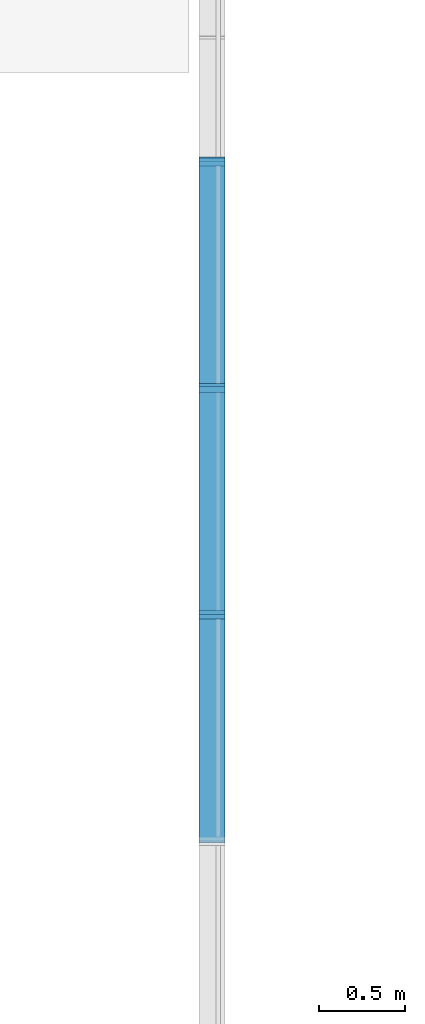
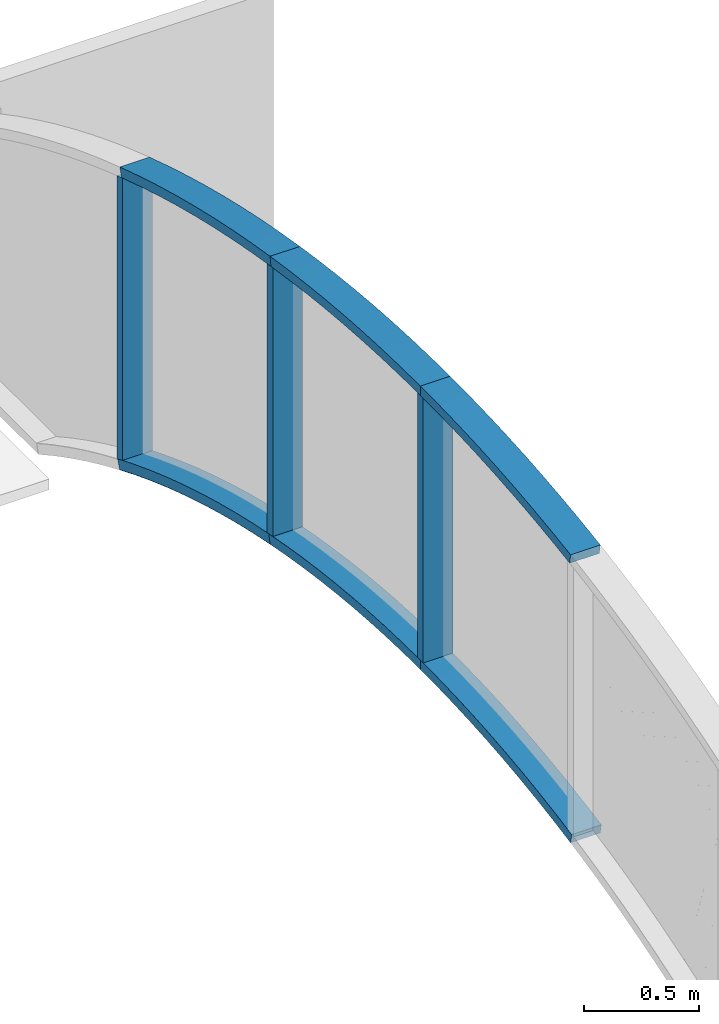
# One storey, part 5 of 14: 17 members, 2 elements without a shape of their own.
"""IFC2X3 building model written with IfcOpenShell, lengths in metres."""

from ifc_helpers import new_model, entity, si_unit, converted_unit, frame, frame_2d, origin, place, context, project, spatial, polyline, circle_curve, parameter, trimmed, segment, composite_curve, outline, extrude, source, transform, mapped, material, type_object, type_shapes, element, aggregate, save


model = new_model("IFC2X3")

# Units and contexts
model_context = context("Model", 3, precision=1e-09, world=origin())
plan_context = context("Plan", 3, precision=1e-09, world=origin())
ifc_project = project(units=[si_unit("LENGTHUNIT", "METRE"), si_unit("AREAUNIT", "SQUARE_METRE"), si_unit("VOLUMEUNIT", "CUBIC_METRE"), converted_unit("PLANEANGLEUNIT", "DEGREE", entity("IfcRatioMeasure", 0.01745329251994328), si_unit("PLANEANGLEUNIT", "RADIAN"), dimensions=[0, 0, 0, 0, 0, 0, 0]), si_unit("TIMEUNIT", "SECOND")], contexts=[model_context, plan_context])

# Site, building, storey
site_placement = place(None, origin())
site = spatial("IfcSite", under=ifc_project, at=site_placement, Name="Default", CompositionType="ELEMENT")
building_placement = place(site_placement, origin())
building = spatial("IfcBuilding", under=site, at=building_placement, CompositionType="ELEMENT")
storey_placement = place(building_placement, frame((0.0, 0.0, 9.25000000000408)))
storey = spatial("IfcBuildingStorey", under=building, at=storey_placement, Name="Roof - Main", CompositionType="ELEMENT", Elevation=9.25000000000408)

# Curtain wall, member
curtain_wall_1_placement = place(storey_placement, origin())
curtain_wall_1 = element("IfcCurtainWall", 1, at=curtain_wall_1_placement, inside=storey, Name="Curtain Wall:Storefront", ObjectType="Curtain Wall:Storefront")
ifc_material = material(Name="Metal - Aluminium")
member_type_1 = type_object("IfcMemberType", Name="50 x 150mm", PredefinedType="MULLION")
shared_shape_1 = source(origin(), model_context, "Body", "SweptSolid", [
    extrude(outline(composite_curve([segment(polyline([(-0.07677120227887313, -0.6538919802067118), (-0.02677120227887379, -0.6538919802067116)]), True, "CONTINUOUS"), segment(trimmed(circle_curve(frame_2d((8.25892973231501, -0.6538919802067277), x_axis=(-0.987541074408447, 0.1573614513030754)), 8.285700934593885), [parameter(3.562221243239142e-13)], [parameter(9.053778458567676)], True, "PARAMETER"), False, "CONTINUOUS"), segment(polyline([(0.07645972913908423, 0.6499579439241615), (0.02708267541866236, 0.6578260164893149)]), True, "CONTINUOUS"), segment(trimmed(circle_curve(frame_2d((8.25892973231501, -0.6538919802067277), x_axis=(-0.987541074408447, 0.1573614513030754)), 8.335700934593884), [parameter(3.562221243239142e-13)], [parameter(9.053778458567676)], True, "PARAMETER"), True, "CONTINUOUS")], self_intersect=False)), frame((-0.07677120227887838, -0.07499999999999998, -0.6538919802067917), z_axis=(0.0, 1.0, 0.0), x_axis=(-0.987541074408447, 0.0, 0.1573614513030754)), (0.0, 0.0, 1.0), 0.15),
])
type_shapes(member_type_1, [shared_shape_1])
member_1_placement = place(storey_placement, frame((-15.23000000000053, 31.69524999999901, 2.384974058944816), z_axis=(0.0, 1.0, 0.0), x_axis=(0.0, 0.0, 1.0)))
member_1 = element("IfcMember", 2, at=member_1_placement, type_object=member_type_1, material=ifc_material, Name="Rectangular Mullion:50 x 150mm:50 x 150mm", ObjectType="50 x 150mm", context=model_context, shape_type="MappedRepresentation", body=[
    mapped(shared_shape_1, transform((0.0, 0.0, 0.0), scale=1.0)),
])

curtain_wall_2_placement = place(storey_placement, origin())
curtain_wall_2 = element("IfcCurtainWall", 3, at=curtain_wall_2_placement, inside=storey, Name="Curtain Wall:Storefront", ObjectType="Curtain Wall:Storefront")
member_type_2 = type_object("IfcMemberType", Name="50 x 150mm", PredefinedType="MULLION")
type_shapes(member_type_2, [shared_shape_1])
member_2_placement = place(storey_placement, frame((-15.23000000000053, 31.69524999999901, 2.384974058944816), z_axis=(0.0, -1.0, 0.0), x_axis=(0.0, 0.0, 1.0)))
member_2 = element("IfcMember", 4, at=member_2_placement, type_object=member_type_2, material=ifc_material, Name="Rectangular Mullion:50 x 150mm:50 x 150mm", ObjectType="50 x 150mm", context=model_context, shape_type="MappedRepresentation", body=[
    mapped(shared_shape_1, transform((0.0, 0.0, 0.0), scale=1.0)),
])

# Member
member_type_3 = type_object("IfcMemberType", Name="50 x 150mm", PredefinedType="MULLION")
shared_shape_2 = source(origin(), model_context, "Body", "SweptSolid", [
    extrude(outline(composite_curve([segment(polyline([(-0.7050109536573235, -0.02500252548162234), (0.7049906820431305, -0.02500252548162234)]), True, "CONTINUOUS"), segment(trimmed(circle_curve(frame_2d((-7.580672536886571, -2.525481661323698e-06), x_axis=(0.9875410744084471, -0.1573614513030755)), 8.285700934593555), [parameter(8.880902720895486)], [parameter(9.053778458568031)], True, "PARAMETER"), True, "CONTINUOUS"), segment(trimmed(circle_curve(frame_2d((-7.580672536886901, -2.525481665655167e-06), x_axis=(1.0, 0.0)), 8.285700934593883), [parameter(0.0)], [parameter(0.1728757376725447)], True, "PARAMETER"), True, "CONTINUOUS"), segment(polyline([(0.7049906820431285, 0.02499747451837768), (-0.7050259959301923, 0.02499747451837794)]), True, "CONTINUOUS"), segment(trimmed(circle_curve(frame_2d((-7.547987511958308, -0.002061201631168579), x_axis=(0.9811197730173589, 0.1934011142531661)), 6.843015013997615), [parameter(348.8660276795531)], [parameter(349.075223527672)], True, "PARAMETER"), False, "CONTINUOUS"), segment(trimmed(circle_curve(frame_2d((-7.547987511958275, -0.002061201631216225), x_axis=(0.9999999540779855, 0.0003030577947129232)), 6.843015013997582), [parameter(359.7905506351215)], [parameter(0.0)], True, "PARAMETER"), False, "CONTINUOUS")], self_intersect=False)), frame((-2.525481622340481e-06, -0.07499999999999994, -0.7549728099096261), z_axis=(0.0, 1.0, 0.0), x_axis=(0.0, 0.0, -1.0)), (0.0, 0.0, 1.0), 0.15),
])
type_shapes(member_type_3, [shared_shape_2])
member_3_placement = place(storey_placement, frame((-15.23000000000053, 31.69524999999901, 0.8749728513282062), z_axis=(0.0, 0.0, -1.0), x_axis=(0.0, 1.0, 0.0)))
member_3 = element("IfcMember", 5, at=member_3_placement, type_object=member_type_3, material=ifc_material, Name="Rectangular Mullion:50 x 150mm:50 x 150mm", ObjectType="50 x 150mm", context=model_context, shape_type="MappedRepresentation", body=[
    mapped(shared_shape_2, transform((0.0, 0.0, 0.0), scale=1.0)),
])

member_type_4 = type_object("IfcMemberType", Name="50 x 150mm", PredefinedType="MULLION")
type_shapes(member_type_4, [shared_shape_2])
member_4_placement = place(storey_placement, frame((-15.23000000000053, 31.69524999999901, 0.8749728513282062), z_axis=(0.0, 0.0, -1.0), x_axis=(0.0, -1.0, 0.0)))
member_4 = element("IfcMember", 6, at=member_4_placement, type_object=member_type_4, material=ifc_material, Name="Rectangular Mullion:50 x 150mm:50 x 150mm", ObjectType="50 x 150mm", context=model_context, shape_type="MappedRepresentation", body=[
    mapped(shared_shape_2, transform((0.0, 0.0, 0.0), scale=1.0)),
])

member_type_5 = type_object("IfcMemberType", Name="50 x 150mm", PredefinedType="MULLION")
shared_shape_3 = source(origin(), model_context, "Body", "SweptSolid", [
    extrude(outline(composite_curve([segment(polyline([(-0.7626003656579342, -0.02433269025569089), (0.7451520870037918, -0.02433269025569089)]), True, "CONTINUOUS"), segment(trimmed(circle_curve(frame_2d((-7.105875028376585, 2.624103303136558), x_axis=(0.8815533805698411, -0.4720843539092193)), 8.285700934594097), [parameter(9.528566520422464)], [parameter(9.825595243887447)], True, "PARAMETER"), True, "CONTINUOUS"), segment(polyline([(0.7587763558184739, 0.01640343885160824), (0.7603105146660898, 0.02103492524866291)]), True, "CONTINUOUS"), segment(polyline([(0.7603105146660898, 0.02103492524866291), (0.7618419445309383, 0.02566730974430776)]), True, "CONTINUOUS"), segment(polyline([(0.7618419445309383, 0.02566730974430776), (-0.7418647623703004, 0.02566730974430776)]), True, "CONTINUOUS"), segment(trimmed(circle_curve(frame_2d((-7.073190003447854, 2.622044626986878), x_axis=(0.9812390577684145, -0.1927949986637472)), 6.843015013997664), [parameter(348.4167488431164)], [parameter(348.8181764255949)], True, "PARAMETER"), False, "CONTINUOUS"), segment(polyline([(-0.7602108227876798, -0.01862732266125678), (-0.7614049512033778, -0.02148028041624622)]), True, "CONTINUOUS"), segment(polyline([(-0.7614049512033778, -0.02148028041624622), (-0.7626003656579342, -0.0243326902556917)]), True, "CONTINUOUS")], self_intersect=False)), frame((0.0006673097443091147, -0.07499999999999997, -0.8063380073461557), z_axis=(0.0, 1.0, 0.0), x_axis=(0.0, 0.0, -1.0)), (0.0, 0.0, 1.0), 0.15),
])
type_shapes(member_type_5, [shared_shape_3])
member_5_placement = place(storey_placement, frame((-15.23000000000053, 34.31868599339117, 0.3488101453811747), z_axis=(0.0, 0.0, -1.0), x_axis=(0.0, 1.0, 0.0)))
member_5 = element("IfcMember", 7, at=member_5_placement, type_object=member_type_5, material=ifc_material, Name="Rectangular Mullion:50 x 150mm:50 x 150mm", ObjectType="50 x 150mm", context=model_context, shape_type="MappedRepresentation", body=[
    mapped(shared_shape_3, transform((0.0, 0.0, 0.0), scale=1.0)),
])

member_type_6 = type_object("IfcMemberType", Name="50 x 150mm", PredefinedType="MULLION")
shared_shape_4 = source(origin(), model_context, "Body", "SweptSolid", [
    extrude(outline(composite_curve([segment(polyline([(-0.7207281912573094, -0.02466761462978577), (0.7121542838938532, -0.02466761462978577)]), True, "CONTINUOUS"), segment(trimmed(circle_curve(frame_2d((-7.465010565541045, 1.312050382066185), x_axis=(0.9491835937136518, -0.3147229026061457)), 8.285700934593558), [parameter(9.060082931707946)], [parameter(9.29030803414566)], True, "PARAMETER"), True, "CONTINUOUS"), segment(polyline([(0.7174594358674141, 0.008200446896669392), (0.7188196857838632, 0.01676570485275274)]), True, "CONTINUOUS"), segment(polyline([(0.7188196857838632, 0.01676570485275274), (0.7201709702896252, 0.02533238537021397)]), True, "CONTINUOUS"), segment(polyline([(0.7201709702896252, 0.02533238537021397), (-0.7109785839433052, 0.02533238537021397)]), True, "CONTINUOUS"), segment(trimmed(circle_curve(frame_2d((-7.432325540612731, 1.309991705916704), x_axis=(0.9999999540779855, 0.0003030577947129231)), 6.843015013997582), [parameter(348.8666938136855)], [parameter(349.1621254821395)], True, "PARAMETER"), False, "CONTINUOUS"), segment(polyline([(-0.7176919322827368, -0.009307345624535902), (-0.7192056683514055, -0.01698834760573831)]), True, "CONTINUOUS"), segment(polyline([(-0.7192056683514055, -0.01698834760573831), (-0.7207281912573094, -0.02466761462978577)]), True, "CONTINUOUS")], self_intersect=False)), frame((0.0003323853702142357, -0.07499999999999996, -0.7667538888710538), z_axis=(0.0, 1.0, 0.0), x_axis=(0.0, 0.0, -1.0)), (0.0, 0.0, 1.0), 0.15),
])
type_shapes(member_type_6, [shared_shape_4])
member_6_placement = place(storey_placement, frame((-15.23000000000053, 33.0069679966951, 0.7475298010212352), z_axis=(0.0, 0.0, -1.0), x_axis=(0.0, 1.0, 0.0)))
member_6 = element("IfcMember", 8, at=member_6_placement, type_object=member_type_6, material=ifc_material, Name="Rectangular Mullion:50 x 150mm:50 x 150mm", ObjectType="50 x 150mm", context=model_context, shape_type="MappedRepresentation", body=[
    mapped(shared_shape_4, transform((0.0, 0.0, 0.0), scale=1.0)),
])

member_type_7 = type_object("IfcMemberType", Name="50 x 150mm", PredefinedType="MULLION")
shared_shape_5 = source(origin(), model_context, "Body", "SweptSolid", [
    extrude(outline(composite_curve([segment(polyline([(-0.7114755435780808, -0.02533874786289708), (0.720462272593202, -0.02533874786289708)]), True, "CONTINUOUS"), segment(trimmed(circle_curve(frame_2d((-7.46471926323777, -1.31205674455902), x_axis=(1.0, 0.0)), 8.285700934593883), [parameter(8.933836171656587)], [parameter(9.053778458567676)], True, "PARAMETER"), True, "CONTINUOUS"), segment(polyline([(0.7177507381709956, -0.008206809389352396), (0.7151146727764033, 0.008229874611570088)]), True, "CONTINUOUS"), segment(polyline([(0.7151146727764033, 0.008229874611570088), (0.7124455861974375, 0.02466125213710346)]), True, "CONTINUOUS"), segment(polyline([(0.7124455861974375, 0.02466125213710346), (-0.7212569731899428, 0.02466125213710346)]), True, "CONTINUOUS"), segment(trimmed(circle_curve(frame_2d((-7.432034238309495, -1.314115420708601), x_axis=(0.9222897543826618, 0.3864991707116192)), 6.843015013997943), [parameter(348.4144940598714)], [parameter(348.5453495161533)], True, "PARAMETER"), False, "CONTINUOUS"), segment(polyline([(-0.7182168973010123, 0.009331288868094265), (-0.7148238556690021, -0.007999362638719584)]), True, "CONTINUOUS"), segment(polyline([(-0.7148238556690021, -0.007999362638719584), (-0.7114755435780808, -0.02533874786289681)]), True, "CONTINUOUS")], self_intersect=False)), frame((-0.0003387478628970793, -0.07499999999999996, -0.7672728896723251), z_axis=(0.0, 1.0, 0.0), x_axis=(0.0, 0.0, -1.0)), (0.0, 0.0, 1.0), 0.15),
])
type_shapes(member_type_7, [shared_shape_5])
member_7_placement = place(storey_placement, frame((-15.23000000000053, 33.0069679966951, 0.7467194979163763), z_axis=(0.0, 0.0, -1.0), x_axis=(0.0, -1.0, 0.0)))
member_7 = element("IfcMember", 9, at=member_7_placement, type_object=member_type_7, material=ifc_material, Name="Rectangular Mullion:50 x 150mm:50 x 150mm", ObjectType="50 x 150mm", context=model_context, shape_type="MappedRepresentation", body=[
    mapped(shared_shape_5, transform((0.0, 0.0, 0.0), scale=1.0)),
])

member_type_8 = type_object("IfcMemberType", Name="50 x 150mm", PredefinedType="MULLION")
shared_shape_6 = source(origin(), model_context, "Body", "SweptSolid", [
    extrude(outline(composite_curve([segment(polyline([(-0.07950557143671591, -0.6708268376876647), (-0.02950557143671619, -0.6708268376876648)]), True, "CONTINUOUS"), segment(trimmed(circle_curve(frame_2d((8.256195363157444, -0.6708268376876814), x_axis=(-0.9868830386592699, 0.1614368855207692)), 8.28570093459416), [parameter(3.562221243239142e-13)], [parameter(9.290308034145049)], True, "PARAMETER"), False, "CONTINUOUS"), segment(polyline([(0.0791776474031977, 0.6667909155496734), (0.02983349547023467, 0.6748627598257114)]), True, "CONTINUOUS"), segment(trimmed(circle_curve(frame_2d((8.256195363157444, -0.6708268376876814), x_axis=(-0.9868830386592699, 0.1614368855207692)), 8.33570093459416), [parameter(3.562221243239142e-13)], [parameter(9.290308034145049)], True, "PARAMETER"), True, "CONTINUOUS")], self_intersect=False)), frame((-0.0795055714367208, -0.07499999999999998, -0.6708268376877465), z_axis=(0.0, 1.0, 0.0), x_axis=(-0.98688303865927, 0.0, 0.1614368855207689)), (0.0, 0.0, 1.0), 0.15),
])
type_shapes(member_type_8, [shared_shape_6])
member_8_placement = place(storey_placement, frame((-15.23000000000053, 33.0069679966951, 2.281120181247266), z_axis=(0.0, -0.9875410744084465, 0.1573614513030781), x_axis=(0.0, 0.1573614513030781, 0.9875410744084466)))
member_8 = element("IfcMember", 10, at=member_8_placement, type_object=member_type_8, material=ifc_material, Name="Rectangular Mullion:50 x 150mm:50 x 150mm", ObjectType="50 x 150mm", context=model_context, shape_type="MappedRepresentation", body=[
    mapped(shared_shape_6, transform((0.0, 0.0, 0.0), scale=1.0)),
])

member_type_9 = type_object("IfcMemberType", Name="50 x 150mm", PredefinedType="MULLION")
shared_shape_7 = source(origin(), model_context, "Body", "SweptSolid", [
    extrude(outline(composite_curve([segment(polyline([(-0.07677120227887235, -0.6538919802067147), (-0.02677120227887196, -0.6538919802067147)]), True, "CONTINUOUS"), segment(trimmed(circle_curve(frame_2d((8.258929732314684, -0.653891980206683), x_axis=(-0.9875410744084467, 0.1573614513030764)), 8.285700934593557), [parameter(3.562221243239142e-13)], [parameter(9.053778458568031)], True, "PARAMETER"), False, "CONTINUOUS"), segment(polyline([(0.0764597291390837, 0.6499579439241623), (0.02708267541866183, 0.6578260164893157)]), True, "CONTINUOUS"), segment(trimmed(circle_curve(frame_2d((8.258929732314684, -0.653891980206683), x_axis=(-0.9875410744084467, 0.1573614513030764)), 8.335700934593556), [parameter(3.562221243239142e-13)], [parameter(9.053778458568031)], True, "PARAMETER"), True, "CONTINUOUS")], self_intersect=False)), frame((-0.07677120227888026, -0.07499999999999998, -0.6538919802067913), z_axis=(0.0, 1.0, 0.0), x_axis=(-0.9875410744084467, 0.0, 0.1573614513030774)), (0.0, 0.0, 1.0), 0.1499999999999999),
])
type_shapes(member_type_9, [shared_shape_7])
member_9_placement = place(storey_placement, frame((-15.23000000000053, 30.38353200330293, 2.281120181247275), z_axis=(0.0, -0.9875410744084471, -0.1573614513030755), x_axis=(0.0, -0.1573614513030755, 0.9875410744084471)))
member_9 = element("IfcMember", 11, at=member_9_placement, type_object=member_type_9, material=ifc_material, Name="Rectangular Mullion:50 x 150mm:50 x 150mm", ObjectType="50 x 150mm", context=model_context, shape_type="MappedRepresentation", body=[
    mapped(shared_shape_7, transform((0.0, 0.0, 0.0), scale=1.0)),
])

member_type_10 = type_object("IfcMemberType", Name="50 x 150mm", PredefinedType="MULLION")
shared_shape_8 = source(origin(), model_context, "Body", "SweptSolid", [
    extrude(outline(composite_curve([segment(polyline([(0.04445483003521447, -0.6846313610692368), (0.09445483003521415, -0.6846313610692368)]), True, "CONTINUOUS"), segment(trimmed(circle_curve(frame_2d((-6.748560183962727, -0.6846313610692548), x_axis=(0.9796260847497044, 0.2008301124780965)), 6.843015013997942), [parameter(348.4144940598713)], [parameter(359.9999999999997)], True, "PARAMETER"), True, "CONTINUOUS"), segment(polyline([(-0.044964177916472, 0.6896521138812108), (-0.09394548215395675, 0.6796106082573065)]), True, "CONTINUOUS"), segment(trimmed(circle_curve(frame_2d((-6.748560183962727, -0.6846313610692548), x_axis=(0.9796260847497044, 0.2008301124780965)), 6.793015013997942), [parameter(348.4144940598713)], [parameter(359.9999999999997)], True, "PARAMETER"), False, "CONTINUOUS")], self_intersect=False)), frame((0.04445483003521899, -0.07499999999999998, -0.6846313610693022), z_axis=(0.0, 1.0, 0.0), x_axis=(-0.9796260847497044, 0.0, -0.2008301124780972)), (0.0, 0.0, 1.0), 0.15),
])
type_shapes(member_type_10, [shared_shape_8])
member_10_placement = place(storey_placement, frame((-15.23000000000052, 34.31868599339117, 0.3470862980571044), z_axis=(0.0, 0.9222897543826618, -0.3864991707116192), x_axis=(0.0, -0.3864991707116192, -0.9222897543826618)))
member_10 = element("IfcMember", 12, at=member_10_placement, type_object=member_type_10, material=ifc_material, Name="Rectangular Mullion:50 x 150mm:50 x 150mm", ObjectType="50 x 150mm", context=model_context, shape_type="MappedRepresentation", body=[
    mapped(shared_shape_8, transform((0.0, 0.0, 0.0), scale=1.0)),
])

member_type_11 = type_object("IfcMemberType", Name="50 x 150mm", PredefinedType="MULLION")
shared_shape_9 = source(origin(), model_context, "Body", "SweptSolid", [
    extrude(outline(composite_curve([segment(polyline([(0.03915552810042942, -0.6582533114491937), (0.08915552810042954, -0.6582533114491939)]), True, "CONTINUOUS"), segment(trimmed(circle_curve(frame_2d((-6.753859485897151, -0.6582533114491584), x_axis=(0.9811805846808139, 0.1930923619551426)), 6.84301501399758), [parameter(348.8666938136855)], [parameter(359.9999999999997)], True, "PARAMETER"), True, "CONTINUOUS"), segment(polyline([(-0.03962601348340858, 0.6630806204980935), (-0.08868504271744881, 0.6534260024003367)]), True, "CONTINUOUS"), segment(trimmed(circle_curve(frame_2d((-6.753859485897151, -0.6582533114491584), x_axis=(0.9811805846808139, 0.1930923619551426)), 6.793015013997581), [parameter(348.8666938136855)], [parameter(359.9999999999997)], True, "PARAMETER"), False, "CONTINUOUS")], self_intersect=False)), frame((0.03915552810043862, -0.07499999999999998, -0.6582533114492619), z_axis=(0.0, 1.0, 0.0), x_axis=(-0.981180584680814, 0.0, -0.1930923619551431)), (0.0, 0.0, 1.0), 0.1499999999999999),
])
type_shapes(member_type_11, [shared_shape_9])
member_11_placement = place(storey_placement, frame((-15.23000000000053, 31.69524999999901, 0.8749728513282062), z_axis=(0.0, 0.9999999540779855, -0.0003030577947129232), x_axis=(0.0, -0.0003030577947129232, -0.9999999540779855)))
member_11 = element("IfcMember", 13, at=member_11_placement, type_object=member_type_11, material=ifc_material, Name="Rectangular Mullion:50 x 150mm:50 x 150mm", ObjectType="50 x 150mm", context=model_context, shape_type="MappedRepresentation", body=[
    mapped(shared_shape_9, transform((0.0, 0.0, 0.0), scale=1.0)),
])

member_type_12 = type_object("IfcMemberType", Name="50 x 150mm", PredefinedType="MULLION")
shared_shape_10 = source(origin(), model_context, "Body", "SweptSolid", [
    extrude(outline(composite_curve([segment(polyline([(0.03915552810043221, -0.6582533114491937), (0.08915552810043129, -0.6582533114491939)]), True, "CONTINUOUS"), segment(trimmed(circle_curve(frame_2d((-6.753859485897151, -0.6582533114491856), x_axis=(0.9811805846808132, 0.1930923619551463)), 6.843015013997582), [parameter(348.8666938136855)], [parameter(359.9999999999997)], True, "PARAMETER"), True, "CONTINUOUS"), segment(polyline([(-0.03962601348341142, 0.6630806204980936), (-0.08868504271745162, 0.6534260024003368)]), True, "CONTINUOUS"), segment(trimmed(circle_curve(frame_2d((-6.753859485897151, -0.6582533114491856), x_axis=(0.9811805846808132, 0.1930923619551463)), 6.793015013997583), [parameter(348.8666938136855)], [parameter(359.9999999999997)], True, "PARAMETER"), False, "CONTINUOUS")], self_intersect=False)), frame((0.03915552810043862, -0.07499999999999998, -0.6582533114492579), z_axis=(0.0, 1.0, 0.0), x_axis=(-0.9811805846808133, 0.0, -0.1930923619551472)), (0.0, 0.0, 1.0), 0.1499999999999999),
])
type_shapes(member_type_12, [shared_shape_10])
member_12_placement = place(storey_placement, frame((-15.23000000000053, 31.69524999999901, 0.8749728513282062), z_axis=(0.0, -0.9999999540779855, -0.0003030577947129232), x_axis=(0.0, 0.0003030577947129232, -0.9999999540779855)))
member_12 = element("IfcMember", 14, at=member_12_placement, type_object=member_type_12, material=ifc_material, Name="Rectangular Mullion:50 x 150mm:50 x 150mm", ObjectType="50 x 150mm", context=model_context, shape_type="MappedRepresentation", body=[
    mapped(shared_shape_10, transform((0.0, 0.0, 0.0), scale=1.0)),
])

member_type_13 = type_object("IfcMemberType", Name="50 x 150mm", PredefinedType="MULLION")
shared_shape_11 = source(origin(), model_context, "Body", "SweptSolid", [
    extrude(outline(composite_curve([segment(polyline([(0.03916318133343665, -0.6582921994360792), (0.08916318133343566, -0.6582921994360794)]), True, "CONTINUOUS"), segment(trimmed(circle_curve(frame_2d((-6.753851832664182, -0.6582921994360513), x_axis=(0.9811783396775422, 0.1931037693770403)), 6.843015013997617), [parameter(348.8660276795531)], [parameter(359.9999999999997)], True, "PARAMETER"), True, "CONTINUOUS"), segment(polyline([(-0.03963372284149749, 0.6631197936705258), (-0.08869263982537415, 0.6534646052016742)]), True, "CONTINUOUS"), segment(trimmed(circle_curve(frame_2d((-6.753851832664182, -0.6582921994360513), x_axis=(0.9811783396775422, 0.1931037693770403)), 6.793015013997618), [parameter(348.8660276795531)], [parameter(359.9999999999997)], True, "PARAMETER"), False, "CONTINUOUS")], self_intersect=False)), frame((0.03916318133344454, -0.07499999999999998, -0.6582921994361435), z_axis=(0.0, 1.0, 0.0), x_axis=(-0.9811783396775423, 0.0, -0.1931037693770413)), (0.0, 0.0, 1.0), 0.1499999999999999),
])
type_shapes(member_type_13, [shared_shape_11])
member_13_placement = place(storey_placement, frame((-15.23000000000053, 33.0069679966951, 0.7467194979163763), z_axis=(0.0, 0.9811197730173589, -0.1934011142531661), x_axis=(0.0, -0.1934011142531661, -0.9811197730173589)))
member_13 = element("IfcMember", 15, at=member_13_placement, type_object=member_type_13, material=ifc_material, Name="Rectangular Mullion:50 x 150mm:50 x 150mm", ObjectType="50 x 150mm", context=model_context, shape_type="MappedRepresentation", body=[
    mapped(shared_shape_11, transform((0.0, 0.0, 0.0), scale=1.0)),
])

aggregate(curtain_wall_2, [member_7, member_9, member_13, member_10, member_2, member_11, member_4, member_8])

member_type_14 = type_object("IfcMemberType", Name="50 x 150mm", PredefinedType="MULLION")
shared_shape_12 = source(origin(), model_context, "Body", "SweptSolid", [
    extrude(outline(composite_curve([segment(polyline([(-0.07677120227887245, -0.6538919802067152), (-0.02677120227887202, -0.653891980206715)]), True, "CONTINUOUS"), segment(trimmed(circle_curve(frame_2d((8.258929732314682, -0.6538919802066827), x_axis=(-0.9875410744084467, 0.1573614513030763)), 8.285700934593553), [parameter(3.562221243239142e-13)], [parameter(9.053778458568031)], True, "PARAMETER"), False, "CONTINUOUS"), segment(polyline([(0.07645972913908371, 0.6499579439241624), (0.02708267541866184, 0.6578260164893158)]), True, "CONTINUOUS"), segment(trimmed(circle_curve(frame_2d((8.258929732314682, -0.6538919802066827), x_axis=(-0.9875410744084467, 0.1573614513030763)), 8.335700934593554), [parameter(3.562221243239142e-13)], [parameter(9.053778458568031)], True, "PARAMETER"), True, "CONTINUOUS")], self_intersect=False)), frame((-0.07677120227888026, -0.07499999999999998, -0.6538919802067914), z_axis=(0.0, 1.0, 0.0), x_axis=(-0.9875410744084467, 0.0, 0.1573614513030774)), (0.0, 0.0, 1.0), 0.1499999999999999),
])
type_shapes(member_type_14, [shared_shape_12])
member_14_placement = place(storey_placement, frame((-15.23000000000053, 33.0069679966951, 2.281120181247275), z_axis=(0.0, 0.9875410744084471, -0.1573614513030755), x_axis=(0.0, 0.1573614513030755, 0.9875410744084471)))
member_14 = element("IfcMember", 16, at=member_14_placement, type_object=member_type_14, material=ifc_material, Name="Rectangular Mullion:50 x 150mm:50 x 150mm", ObjectType="50 x 150mm", context=model_context, shape_type="MappedRepresentation", body=[
    mapped(shared_shape_12, transform((0.0, 0.0, 0.0), scale=1.0)),
])

member_type_15 = type_object("IfcMemberType", Name="50 x 150mm", PredefinedType="MULLION")
shared_shape_13 = source(origin(), model_context, "Body", "SweptSolid", [
    extrude(outline(composite_curve([segment(polyline([(0.04442789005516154, -0.6844999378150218), (0.09442789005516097, -0.6844999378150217)]), True, "CONTINUOUS"), segment(trimmed(circle_curve(frame_2d((-6.748587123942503, -0.684499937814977), x_axis=(0.9796339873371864, 0.2007915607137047)), 6.843015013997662), [parameter(348.4167488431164)], [parameter(359.9999999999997)], True, "PARAMETER"), True, "CONTINUOUS"), segment(polyline([(-0.0449370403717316, 0.6895197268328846), (-0.09391873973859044, 0.6794801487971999)]), True, "CONTINUOUS"), segment(trimmed(circle_curve(frame_2d((-6.748587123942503, -0.684499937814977), x_axis=(0.9796339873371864, 0.2007915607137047)), 6.793015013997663), [parameter(348.4167488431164)], [parameter(359.9999999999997)], True, "PARAMETER"), False, "CONTINUOUS")], self_intersect=False)), frame((0.04442789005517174, -0.07499999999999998, -0.6844999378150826), z_axis=(0.0, 1.0, 0.0), x_axis=(-0.9796339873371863, 0.0, -0.2007915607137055)), (0.0, 0.0, 1.0), 0.1499999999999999),
])
type_shapes(member_type_15, [shared_shape_13])
member_15_placement = place(storey_placement, frame((-15.23000000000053, 33.0069679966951, 0.7475298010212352), z_axis=(0.0, -0.9812390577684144, 0.1927949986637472), x_axis=(0.0, -0.1927949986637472, -0.9812390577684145)))
member_15 = element("IfcMember", 17, at=member_15_placement, type_object=member_type_15, material=ifc_material, Name="Rectangular Mullion:50 x 150mm:50 x 150mm", ObjectType="50 x 150mm", context=model_context, shape_type="MappedRepresentation", body=[
    mapped(shared_shape_13, transform((0.0, 0.0, 0.0), scale=1.0)),
])

member_type_16 = type_object("IfcMemberType", Name="50 x 150mm", PredefinedType="MULLION")
shared_shape_14 = source(origin(), model_context, "Body", "SweptSolid", [
    extrude(outline(composite_curve([segment(polyline([(0.03916318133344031, -0.6582921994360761), (0.08916318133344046, -0.6582921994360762)]), True, "CONTINUOUS"), segment(trimmed(circle_curve(frame_2d((-6.753851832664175, -0.6582921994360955), x_axis=(0.9811783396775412, 0.1931037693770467)), 6.843015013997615), [parameter(348.8660276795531)], [parameter(359.9999999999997)], True, "PARAMETER"), True, "CONTINUOUS"), segment(polyline([(-0.03963372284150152, 0.6631197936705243), (-0.0886926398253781, 0.6534646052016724)]), True, "CONTINUOUS"), segment(trimmed(circle_curve(frame_2d((-6.753851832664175, -0.6582921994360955), x_axis=(0.9811783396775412, 0.1931037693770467)), 6.793015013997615), [parameter(348.8660276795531)], [parameter(359.9999999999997)], True, "PARAMETER"), False, "CONTINUOUS")], self_intersect=False)), frame((0.03916318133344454, -0.07499999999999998, -0.6582921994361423), z_axis=(0.0, 1.0, 0.0), x_axis=(-0.9811783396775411, 0.0, -0.1931037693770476)), (0.0, 0.0, 1.0), 0.1499999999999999),
])
type_shapes(member_type_16, [shared_shape_14])
member_16_placement = place(storey_placement, frame((-15.23000000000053, 30.38353200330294, 0.7467194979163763), z_axis=(0.0, -0.9811197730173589, -0.1934011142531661), x_axis=(0.0, 0.1934011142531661, -0.9811197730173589)))
member_16 = element("IfcMember", 18, at=member_16_placement, type_object=member_type_16, material=ifc_material, Name="Rectangular Mullion:50 x 150mm:50 x 150mm", ObjectType="50 x 150mm", context=model_context, shape_type="MappedRepresentation", body=[
    mapped(shared_shape_14, transform((0.0, 0.0, 0.0), scale=1.0)),
])

member_type_17 = type_object("IfcMemberType", Name="50 x 150mm", PredefinedType="MULLION")
shared_shape_15 = source(origin(), model_context, "Body", "SweptSolid", [
    extrude(outline(composite_curve([segment(polyline([(-0.07950557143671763, -0.6708268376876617), (-0.02950557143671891, -0.6708268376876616)]), True, "CONTINUOUS"), segment(trimmed(circle_curve(frame_2d((8.256195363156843, -0.6708268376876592), x_axis=(-0.9868830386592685, 0.1614368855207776)), 8.285700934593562), [parameter(3.562221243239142e-13)], [parameter(9.29030803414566)], True, "PARAMETER"), False, "CONTINUOUS"), segment(polyline([(0.07917764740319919, 0.6667909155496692), (0.02983349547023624, 0.6748627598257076)]), True, "CONTINUOUS"), segment(trimmed(circle_curve(frame_2d((8.256195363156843, -0.6708268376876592), x_axis=(-0.9868830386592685, 0.1614368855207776)), 8.33570093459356), [parameter(3.562221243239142e-13)], [parameter(9.29030803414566)], True, "PARAMETER"), True, "CONTINUOUS")], self_intersect=False)), frame((-0.07950557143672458, -0.07499999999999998, -0.6708268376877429), z_axis=(0.0, 1.0, 0.0), x_axis=(-0.9868830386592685, 0.0, 0.1614368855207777)), (0.0, 0.0, 1.0), 0.15),
])
type_shapes(member_type_17, [shared_shape_15])
member_17_placement = place(storey_placement, frame((-15.23000000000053, 34.31868599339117, 1.961383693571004), z_axis=(0.0, 0.9491835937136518, -0.3147229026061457), x_axis=(0.0, 0.3147229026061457, 0.9491835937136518)))
member_17 = element("IfcMember", 19, at=member_17_placement, type_object=member_type_17, material=ifc_material, Name="Rectangular Mullion:50 x 150mm:50 x 150mm", ObjectType="50 x 150mm", context=model_context, shape_type="MappedRepresentation", body=[
    mapped(shared_shape_15, transform((0.0, 0.0, 0.0), scale=1.0)),
])

aggregate(curtain_wall_1, [member_15, member_12, member_17, member_16, member_14, member_1, member_5, member_6, member_3])

save(model, "model.ifc")
